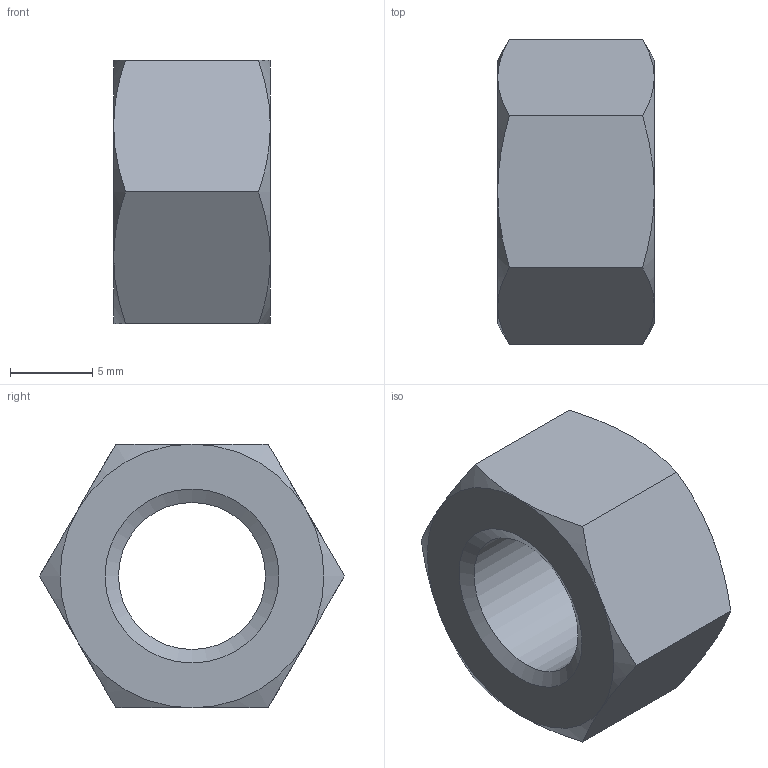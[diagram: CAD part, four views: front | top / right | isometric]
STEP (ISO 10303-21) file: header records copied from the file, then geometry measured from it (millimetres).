
FILE_DESCRIPTION(/* description */ ('6각 너트 및 6각 가는 너트'),/* implementation_level */ '2;1');
FILE_NAME(/* name */ '',/* time_stamp */ '2024-08-09T13:01:19+09:00',/* author */ ('jhkim'),/* organization */ (''),/* preprocessor_version */ 'ST-DEVELOPER v20',/* originating_system */ 'Autodesk Inventor 2025',/* authorisation */ '');
FILE_SCHEMA (('AUTOMOTIVE_DESIGN { 1 0 10303 214 3 1 1 }'));
Length unit declared in the file: millimetre
Products named in the file (1): 육각 너트 M10x1
Bounding box: 9.5 x 18.48 x 16 mm (x, y, z)
Volume: 1492.6 mm3; surface area: 1071.8 mm2
Topology: 1 solids, 1 shells, 23 faces, 50 edges, 29 vertices
Faces by surface type: cone 14, plane 8, cylinder 1
Full cylindrical faces by diameter (mm): 8.917 x1
Entity records: 640 total; most frequent: CARTESIAN_POINT 151, ORIENTED_EDGE 100, DIRECTION 91, EDGE_CURVE 50, AXIS2_PLACEMENT_3D 41, VERTEX_POINT 29, EDGE_LOOP 25, FACE_OUTER_BOUND 23
